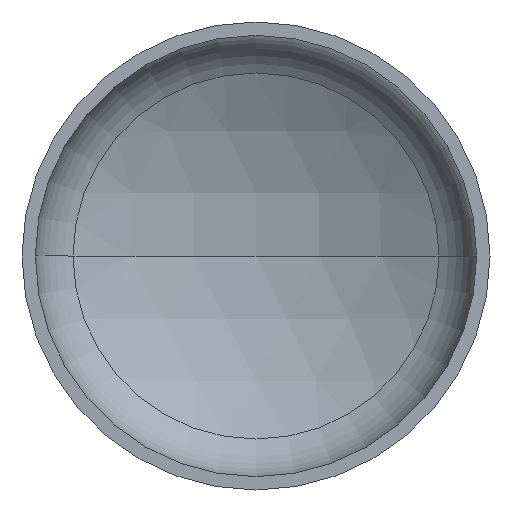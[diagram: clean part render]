
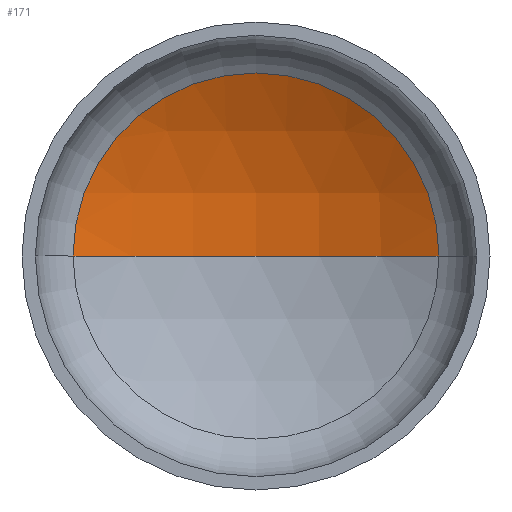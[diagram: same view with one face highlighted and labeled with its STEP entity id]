
A CAD part, front view. The second image highlights one B-rep face of the part: STEP entity #171.
In plain terms, the highlighted spherical face has radius 560 mm.
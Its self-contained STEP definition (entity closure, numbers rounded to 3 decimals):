
#11 = EDGE_LOOP ( 'NONE', ( #84, #56, #96 ) ) ;
#24 = AXIS2_PLACEMENT_3D ( 'NONE', #267, #213, #241 ) ;
#37 = AXIS2_PLACEMENT_3D ( 'NONE', #258, #254, #275 ) ;
#43 = AXIS2_PLACEMENT_3D ( 'NONE', #215, #224, #223 ) ;
#46 = VERTEX_POINT ( 'NONE', #269 ) ;
#47 = VERTEX_POINT ( 'NONE', #248 ) ;
#48 = AXIS2_PLACEMENT_3D ( 'NONE', #302, #326, #174 ) ;
#56 = ORIENTED_EDGE ( 'NONE', *, *, #136, .T. ) ;
#84 = ORIENTED_EDGE ( 'NONE', *, *, #137, .F. ) ;
#96 = ORIENTED_EDGE ( 'NONE', *, *, #134, .T. ) ;
#116 = VERTEX_POINT ( 'NONE', #345 ) ;
#134 = EDGE_CURVE ( 'NONE', #46, #116, #293, .T. ) ;
#136 = EDGE_CURVE ( 'NONE', #47, #46, #231, .T. ) ;
#137 = EDGE_CURVE ( 'NONE', #47, #116, #164, .T. ) ;
#156 = FACE_OUTER_BOUND ( 'NONE', #11, .T. ) ;
#164 = CIRCLE ( 'NONE', #37, 560. ) ;
#171 = ADVANCED_FACE ( 'NONE', ( #156 ), #406, .F. ) ;
#174 = DIRECTION ( 'NONE',  ( 1., 0., 0. ) ) ;
#213 = DIRECTION ( 'NONE',  ( 0., 0., -1. ) ) ;
#215 = CARTESIAN_POINT ( 'NONE',  ( 0., -332.556, 0. ) ) ;
#223 = DIRECTION ( 'NONE',  ( -1., 0., 0. ) ) ;
#224 = DIRECTION ( 'NONE',  ( 0., 0., -1. ) ) ;
#231 = CIRCLE ( 'NONE', #43, 560. ) ;
#241 = DIRECTION ( 'NONE',  ( -1., 0., 0. ) ) ;
#248 = CARTESIAN_POINT ( 'NONE',  ( 0., 227.444, 0. ) ) ;
#254 = DIRECTION ( 'NONE',  ( 0., 0., 1. ) ) ;
#258 = CARTESIAN_POINT ( 'NONE',  ( 0., -332.556, 0. ) ) ;
#267 = CARTESIAN_POINT ( 'NONE',  ( 0., -332.556, 0. ) ) ;
#269 = CARTESIAN_POINT ( 'NONE',  ( 273.778, 155.958, 0. ) ) ;
#275 = DIRECTION ( 'NONE',  ( 1., 0., 0. ) ) ;
#293 = CIRCLE ( 'NONE', #48, 273.778 ) ;
#302 = CARTESIAN_POINT ( 'NONE',  ( 0., 155.958, 0. ) ) ;
#326 = DIRECTION ( 'NONE',  ( 0., -1., 0. ) ) ;
#345 = CARTESIAN_POINT ( 'NONE',  ( -273.778, 155.958, 0. ) ) ;
#406 = SPHERICAL_SURFACE ( 'NONE', #24, 560. ) ;
